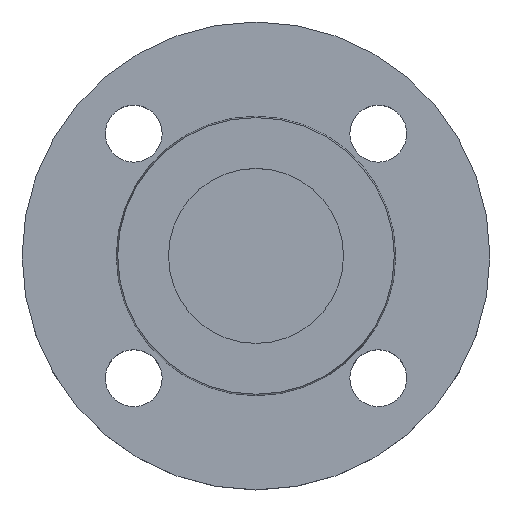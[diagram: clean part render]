
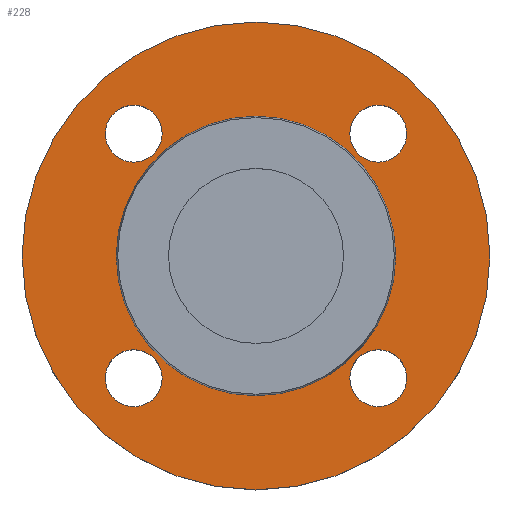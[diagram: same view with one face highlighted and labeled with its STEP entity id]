
A CAD part, top view. The second image highlights one B-rep face of the part: STEP entity #228.
In plain terms, the highlighted planar face has unit normal (0, 0, 1).
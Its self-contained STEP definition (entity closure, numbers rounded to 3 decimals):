
#21 = AXIS2_PLACEMENT_3D ( 'NONE', #317, #318, #319 ) ;
#60 = DIRECTION ( 'NONE',  ( -1., 0., 0. ) ) ;
#61 = DIRECTION ( 'NONE',  ( 0., 0., -1. ) ) ;
#62 = CARTESIAN_POINT ( 'NONE',  ( 0., 0., -2. ) ) ;
#63 = DIRECTION ( 'NONE',  ( -1., 0., 0. ) ) ;
#64 = DIRECTION ( 'NONE',  ( 0., 0., -1. ) ) ;
#66 = CARTESIAN_POINT ( 'NONE',  ( 0., 0., -2. ) ) ;
#68 = DIRECTION ( 'NONE',  ( 1., 0., 0. ) ) ;
#69 = DIRECTION ( 'NONE',  ( 0., 0., -1. ) ) ;
#70 = CARTESIAN_POINT ( 'NONE',  ( -30.052, 30.052, -2. ) ) ;
#71 = DIRECTION ( 'NONE',  ( 1., 0., 0. ) ) ;
#72 = DIRECTION ( 'NONE',  ( 0., 0., -1. ) ) ;
#73 = CARTESIAN_POINT ( 'NONE',  ( -30.052, -30.052, -2. ) ) ;
#90 = DIRECTION ( 'NONE',  ( 0., 0., -1. ) ) ;
#93 = DIRECTION ( 'NONE',  ( 1., 0., 0. ) ) ;
#94 = DIRECTION ( 'NONE',  ( 0., 0., -1. ) ) ;
#99 = AXIS2_PLACEMENT_3D ( 'NONE', #725, #720, #193 ) ;
#102 = DIRECTION ( 'NONE',  ( 0., 0., -1. ) ) ;
#113 = CARTESIAN_POINT ( 'NONE',  ( 30.052, -30.052, -2. ) ) ;
#120 = DIRECTION ( 'NONE',  ( 1., 0., 0. ) ) ;
#122 = CARTESIAN_POINT ( 'NONE',  ( -30.052, 30.052, -2. ) ) ;
#134 = DIRECTION ( 'NONE',  ( 1., 0., 0. ) ) ;
#135 = AXIS2_PLACEMENT_3D ( 'NONE', #62, #61, #60 ) ;
#137 = CARTESIAN_POINT ( 'NONE',  ( -57.5, 0., -2. ) ) ;
#138 = CARTESIAN_POINT ( 'NONE',  ( 37.052, -30.052, -2. ) ) ;
#144 = CARTESIAN_POINT ( 'NONE',  ( 37.052, 30.052, -2. ) ) ;
#153 = CARTESIAN_POINT ( 'NONE',  ( 30.052, 30.052, -2. ) ) ;
#154 = EDGE_CURVE ( 'NONE', #377, #369, #263, .T. ) ;
#156 = CARTESIAN_POINT ( 'NONE',  ( 57.5, 0., -2. ) ) ;
#159 = AXIS2_PLACEMENT_3D ( 'NONE', #681, #682, #684 ) ;
#182 = CIRCLE ( 'NONE', #183, 7. ) ;
#183 = AXIS2_PLACEMENT_3D ( 'NONE', #73, #72, #71 ) ;
#185 = CIRCLE ( 'NONE', #188, 7. ) ;
#188 = AXIS2_PLACEMENT_3D ( 'NONE', #70, #69, #68 ) ;
#190 = CIRCLE ( 'NONE', #605, 7. ) ;
#193 = DIRECTION ( 'NONE',  ( 1., 0., 0. ) ) ;
#194 = CIRCLE ( 'NONE', #514, 57.5 ) ;
#197 = AXIS2_PLACEMENT_3D ( 'NONE', #685, #686, #687 ) ;
#228 = ADVANCED_FACE ( 'NONE', ( #673, #674, #676, #677, #678, #679 ), #680, .T. ) ;
#233 = EDGE_CURVE ( 'NONE', #373, #554, #255, .T. ) ;
#241 = CIRCLE ( 'NONE', #254, 7. ) ;
#246 = CARTESIAN_POINT ( 'NONE',  ( 34.353, 0., -2. ) ) ;
#247 = CARTESIAN_POINT ( 'NONE',  ( 23.052, 30.052, -2. ) ) ;
#251 = CARTESIAN_POINT ( 'NONE',  ( -34.353, 0., -2. ) ) ;
#254 = AXIS2_PLACEMENT_3D ( 'NONE', #122, #94, #93 ) ;
#255 = CIRCLE ( 'NONE', #197, 7. ) ;
#263 = CIRCLE ( 'NONE', #669, 34.353 ) ;
#266 = EDGE_CURVE ( 'NONE', #422, #563, #276, .T. ) ;
#272 = AXIS2_PLACEMENT_3D ( 'NONE', #113, #102, #120 ) ;
#276 = CIRCLE ( 'NONE', #360, 7. ) ;
#280 = CIRCLE ( 'NONE', #21, 57.5 ) ;
#293 = EDGE_CURVE ( 'NONE', #435, #540, #475, .T. ) ;
#304 = CARTESIAN_POINT ( 'NONE',  ( 23.052, -30.052, -2. ) ) ;
#312 = CARTESIAN_POINT ( 'NONE',  ( -23.052, -30.052, -2. ) ) ;
#317 = CARTESIAN_POINT ( 'NONE',  ( 0., 0., -2. ) ) ;
#318 = DIRECTION ( 'NONE',  ( 0., 0., -1. ) ) ;
#319 = DIRECTION ( 'NONE',  ( -1., 0., 0. ) ) ;
#330 = CARTESIAN_POINT ( 'NONE',  ( -37.052, -30.052, -2. ) ) ;
#350 = CARTESIAN_POINT ( 'NONE',  ( -23.052, 30.052, -2. ) ) ;
#355 = CARTESIAN_POINT ( 'NONE',  ( -37.052, 30.052, -2. ) ) ;
#360 = AXIS2_PLACEMENT_3D ( 'NONE', #711, #712, #713 ) ;
#369 = VERTEX_POINT ( 'NONE', #246 ) ;
#373 = VERTEX_POINT ( 'NONE', #247 ) ;
#375 = CIRCLE ( 'NONE', #135, 34.353 ) ;
#377 = VERTEX_POINT ( 'NONE', #251 ) ;
#388 = EDGE_LOOP ( 'NONE', ( #452, #455 ) ) ;
#409 = EDGE_LOOP ( 'NONE', ( #449, #450 ) ) ;
#422 = VERTEX_POINT ( 'NONE', #304 ) ;
#435 = VERTEX_POINT ( 'NONE', #312 ) ;
#440 = ORIENTED_EDGE ( 'NONE', *, *, #485, .T. ) ;
#441 = ORIENTED_EDGE ( 'NONE', *, *, #266, .T. ) ;
#442 = ORIENTED_EDGE ( 'NONE', *, *, #293, .T. ) ;
#446 = ORIENTED_EDGE ( 'NONE', *, *, #595, .T. ) ;
#447 = ORIENTED_EDGE ( 'NONE', *, *, #516, .T. ) ;
#448 = ORIENTED_EDGE ( 'NONE', *, *, #597, .T. ) ;
#449 = ORIENTED_EDGE ( 'NONE', *, *, #547, .T. ) ;
#450 = ORIENTED_EDGE ( 'NONE', *, *, #233, .T. ) ;
#451 = EDGE_CURVE ( 'NONE', #534, #538, #280, .T. ) ;
#452 = ORIENTED_EDGE ( 'NONE', *, *, #154, .T. ) ;
#455 = ORIENTED_EDGE ( 'NONE', *, *, #675, .T. ) ;
#458 = ORIENTED_EDGE ( 'NONE', *, *, #451, .F. ) ;
#459 = ORIENTED_EDGE ( 'NONE', *, *, #659, .F. ) ;
#475 = CIRCLE ( 'NONE', #99, 7. ) ;
#485 = EDGE_CURVE ( 'NONE', #563, #422, #715, .T. ) ;
#494 = EDGE_LOOP ( 'NONE', ( #440, #441 ) ) ;
#514 = AXIS2_PLACEMENT_3D ( 'NONE', #66, #64, #63 ) ;
#516 = EDGE_CURVE ( 'NONE', #535, #526, #241, .T. ) ;
#525 = EDGE_LOOP ( 'NONE', ( #442, #446 ) ) ;
#526 = VERTEX_POINT ( 'NONE', #355 ) ;
#534 = VERTEX_POINT ( 'NONE', #156 ) ;
#535 = VERTEX_POINT ( 'NONE', #350 ) ;
#536 = EDGE_LOOP ( 'NONE', ( #458, #459 ) ) ;
#538 = VERTEX_POINT ( 'NONE', #137 ) ;
#540 = VERTEX_POINT ( 'NONE', #330 ) ;
#547 = EDGE_CURVE ( 'NONE', #554, #373, #190, .T. ) ;
#552 = EDGE_LOOP ( 'NONE', ( #447, #448 ) ) ;
#554 = VERTEX_POINT ( 'NONE', #144 ) ;
#563 = VERTEX_POINT ( 'NONE', #138 ) ;
#595 = EDGE_CURVE ( 'NONE', #540, #435, #182, .T. ) ;
#597 = EDGE_CURVE ( 'NONE', #526, #535, #185, .T. ) ;
#605 = AXIS2_PLACEMENT_3D ( 'NONE', #153, #90, #134 ) ;
#629 = CARTESIAN_POINT ( 'NONE',  ( 0., 0., -2. ) ) ;
#631 = DIRECTION ( 'NONE',  ( 0., 0., -1. ) ) ;
#632 = DIRECTION ( 'NONE',  ( -1., 0., 0. ) ) ;
#659 = EDGE_CURVE ( 'NONE', #538, #534, #194, .T. ) ;
#669 = AXIS2_PLACEMENT_3D ( 'NONE', #629, #631, #632 ) ;
#673 = FACE_BOUND ( 'NONE', #494, .T. ) ;
#674 = FACE_BOUND ( 'NONE', #525, .T. ) ;
#675 = EDGE_CURVE ( 'NONE', #369, #377, #375, .T. ) ;
#676 = FACE_BOUND ( 'NONE', #552, .T. ) ;
#677 = FACE_BOUND ( 'NONE', #409, .T. ) ;
#678 = FACE_BOUND ( 'NONE', #388, .T. ) ;
#679 = FACE_OUTER_BOUND ( 'NONE', #536, .T. ) ;
#680 = PLANE ( 'NONE',  #159 ) ;
#681 = CARTESIAN_POINT ( 'NONE',  ( 34.353, 0., -2. ) ) ;
#682 = DIRECTION ( 'NONE',  ( 0., 0., 1. ) ) ;
#684 = DIRECTION ( 'NONE',  ( 1., 0., 0. ) ) ;
#685 = CARTESIAN_POINT ( 'NONE',  ( 30.052, 30.052, -2. ) ) ;
#686 = DIRECTION ( 'NONE',  ( 0., 0., -1. ) ) ;
#687 = DIRECTION ( 'NONE',  ( 1., 0., 0. ) ) ;
#711 = CARTESIAN_POINT ( 'NONE',  ( 30.052, -30.052, -2. ) ) ;
#712 = DIRECTION ( 'NONE',  ( 0., 0., -1. ) ) ;
#713 = DIRECTION ( 'NONE',  ( 1., 0., 0. ) ) ;
#715 = CIRCLE ( 'NONE', #272, 7. ) ;
#720 = DIRECTION ( 'NONE',  ( 0., 0., -1. ) ) ;
#725 = CARTESIAN_POINT ( 'NONE',  ( -30.052, -30.052, -2. ) ) ;
